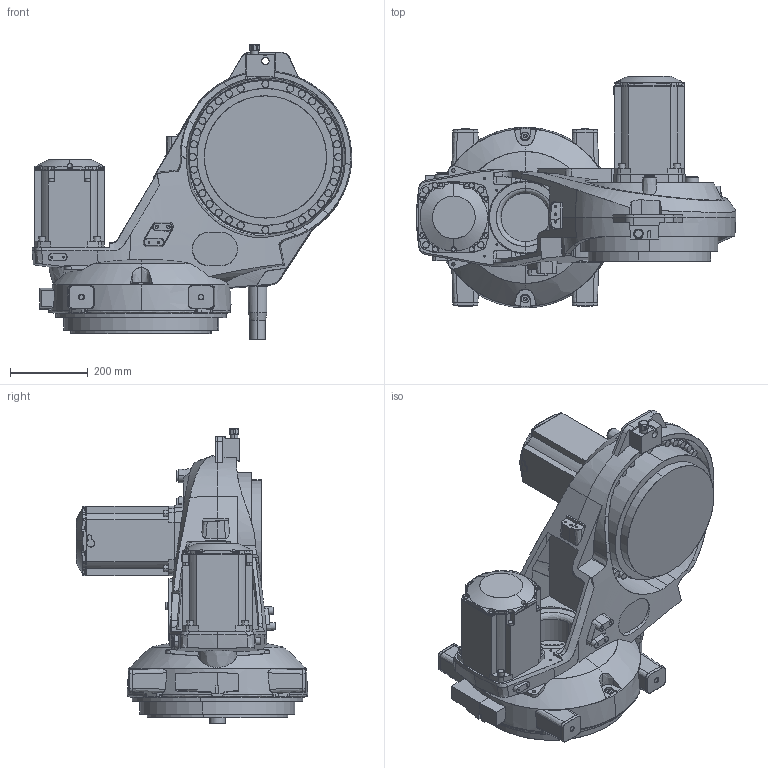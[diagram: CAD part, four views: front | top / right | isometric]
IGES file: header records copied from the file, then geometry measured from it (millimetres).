
Start section: SolidWorks IGES file using analytic representation for surfaces
Global section: file name: C:\Users\SEALDUN\OneDrive - ABB\Documents\R&D Robotics\Work Items\WI 632927 light weight hole removal\IGES\IRB5720-MH3_180kg-260_OC_03_IGES_J\IRB5720-MH3_180kg-260_OmniCore_rev00_LINK01_CAD.igs; native system: SolidWorks 2024; preprocessor: SolidWorks 2024; author: SEALDUN; date: 250708.132457; units: millimetre
Bounding box: 823.7 x 596.28 x 761.4 mm (x, y, z)
Surface area: 2197337.1 mm2 (no closed solid volume)
Topology: 0 solids, 0 shells, 1578 faces, 25718 edges, 25650 vertices
Faces by surface type: bspline 829, revolution 749
